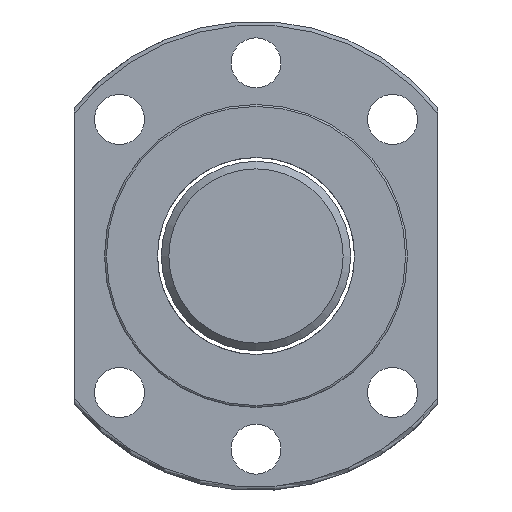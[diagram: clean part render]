
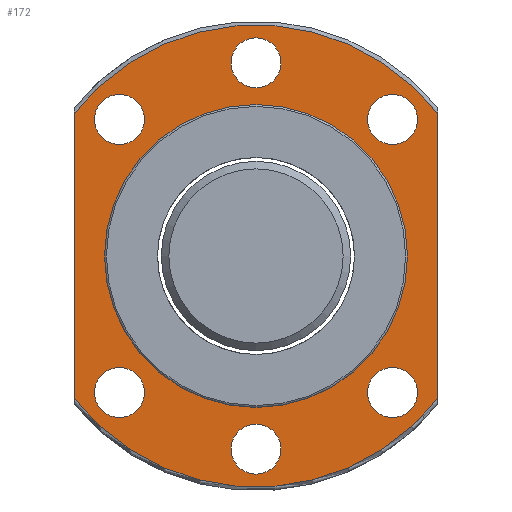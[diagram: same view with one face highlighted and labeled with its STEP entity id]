
A CAD part, left-side view. The second image highlights one B-rep face of the part: STEP entity #172.
In plain terms, the highlighted planar face has unit normal (-1, 0, 0).
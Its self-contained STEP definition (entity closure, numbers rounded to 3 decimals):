
#109=PLANE('',#679);
#126=LINE('',#1118,#134);
#127=LINE('',#1119,#135);
#134=VECTOR('',#782,1.);
#135=VECTOR('',#783,1.);
#148=FACE_OUTER_BOUND('',#308,.T.);
#172=ADVANCED_FACE('',(#148,#242,#243,#244,#245,#246,#247,#248),#109,.T.);
#242=FACE_BOUND('',#309,.T.);
#243=FACE_BOUND('',#310,.T.);
#244=FACE_BOUND('',#311,.T.);
#245=FACE_BOUND('',#312,.T.);
#246=FACE_BOUND('',#313,.T.);
#247=FACE_BOUND('',#314,.T.);
#248=FACE_BOUND('',#315,.T.);
#308=EDGE_LOOP('',(#411,#412,#413,#414));
#309=EDGE_LOOP('',(#415));
#310=EDGE_LOOP('',(#416));
#311=EDGE_LOOP('',(#417));
#312=EDGE_LOOP('',(#418));
#313=EDGE_LOOP('',(#419));
#314=EDGE_LOOP('',(#420));
#315=EDGE_LOOP('',(#421));
#411=ORIENTED_EDGE('',*,*,#577,.F.);
#412=ORIENTED_EDGE('',*,*,#557,.F.);
#413=ORIENTED_EDGE('',*,*,#578,.T.);
#414=ORIENTED_EDGE('',*,*,#575,.F.);
#415=ORIENTED_EDGE('',*,*,#579,.T.);
#416=ORIENTED_EDGE('',*,*,#580,.F.);
#417=ORIENTED_EDGE('',*,*,#581,.F.);
#418=ORIENTED_EDGE('',*,*,#582,.F.);
#419=ORIENTED_EDGE('',*,*,#583,.F.);
#420=ORIENTED_EDGE('',*,*,#584,.F.);
#421=ORIENTED_EDGE('',*,*,#585,.F.);
#502=VERTEX_POINT('',#985);
#503=VERTEX_POINT('',#1005);
#517=VERTEX_POINT('',#1095);
#518=VERTEX_POINT('',#1097);
#519=VERTEX_POINT('',#1121);
#520=VERTEX_POINT('',#1123);
#521=VERTEX_POINT('',#1125);
#522=VERTEX_POINT('',#1127);
#523=VERTEX_POINT('',#1129);
#524=VERTEX_POINT('',#1131);
#525=VERTEX_POINT('',#1133);
#557=EDGE_CURVE('',#503,#502,#610,.T.);
#575=EDGE_CURVE('',#517,#518,#621,.T.);
#577=EDGE_CURVE('',#502,#517,#126,.T.);
#578=EDGE_CURVE('',#503,#518,#127,.T.);
#579=EDGE_CURVE('',#519,#519,#622,.T.);
#580=EDGE_CURVE('',#520,#520,#623,.T.);
#581=EDGE_CURVE('',#521,#521,#624,.T.);
#582=EDGE_CURVE('',#522,#522,#625,.T.);
#583=EDGE_CURVE('',#523,#523,#626,.T.);
#584=EDGE_CURVE('',#524,#524,#627,.T.);
#585=EDGE_CURVE('',#525,#525,#628,.T.);
#610=CIRCLE('',#655,30.5);
#621=CIRCLE('',#670,30.5);
#622=CIRCLE('',#672,20.);
#623=CIRCLE('',#673,3.3);
#624=CIRCLE('',#674,3.3);
#625=CIRCLE('',#675,3.3);
#626=CIRCLE('',#676,3.3);
#627=CIRCLE('',#677,3.3);
#628=CIRCLE('',#678,3.3);
#655=AXIS2_PLACEMENT_3D('',#1006,#744,#745);
#670=AXIS2_PLACEMENT_3D('',#1096,#778,#779);
#672=AXIS2_PLACEMENT_3D('',#1120,#784,#785);
#673=AXIS2_PLACEMENT_3D('',#1122,#786,#787);
#674=AXIS2_PLACEMENT_3D('',#1124,#788,#789);
#675=AXIS2_PLACEMENT_3D('',#1126,#790,#791);
#676=AXIS2_PLACEMENT_3D('',#1128,#792,#793);
#677=AXIS2_PLACEMENT_3D('',#1130,#794,#795);
#678=AXIS2_PLACEMENT_3D('',#1132,#796,#797);
#679=AXIS2_PLACEMENT_3D('',#1134,#798,#799);
#744=DIRECTION('',(1.,0.,0.));
#745=DIRECTION('',(0.,0.,-1.));
#778=DIRECTION('',(1.,0.,0.));
#779=DIRECTION('',(0.,0.,-1.));
#782=DIRECTION('',(0.,0.,1.));
#783=DIRECTION('',(0.,0.,1.));
#784=DIRECTION('',(1.,0.,0.));
#785=DIRECTION('',(0.,0.,-1.));
#786=DIRECTION('',(-1.,0.,0.));
#787=DIRECTION('',(0.,0.,1.));
#788=DIRECTION('',(-1.,0.,0.));
#789=DIRECTION('',(0.,0.,1.));
#790=DIRECTION('',(-1.,0.,0.));
#791=DIRECTION('',(0.,0.,1.));
#792=DIRECTION('',(-1.,0.,0.));
#793=DIRECTION('',(0.,0.,1.));
#794=DIRECTION('',(-1.,0.,0.));
#795=DIRECTION('',(0.,0.,1.));
#796=DIRECTION('',(-1.,0.,0.));
#797=DIRECTION('',(0.,0.,1.));
#798=DIRECTION('',(-1.,0.,0.));
#799=DIRECTION('',(0.,0.,1.));
#985=CARTESIAN_POINT('',(-31.,24.,-18.822));
#1005=CARTESIAN_POINT('',(-31.,-24.,-18.822));
#1006=CARTESIAN_POINT('',(-31.,0.,0.));
#1095=CARTESIAN_POINT('',(-31.,24.,18.822));
#1096=CARTESIAN_POINT('',(-31.,0.,0.));
#1097=CARTESIAN_POINT('',(-31.,-24.,18.822));
#1118=CARTESIAN_POINT('',(-31.,24.,0.));
#1119=CARTESIAN_POINT('',(-31.,-24.,0.));
#1120=CARTESIAN_POINT('',(-31.,0.,0.));
#1121=CARTESIAN_POINT('',(-31.,0.,-20.));
#1122=CARTESIAN_POINT('',(-31.,18.031,18.031));
#1123=CARTESIAN_POINT('',(-31.,18.031,21.331));
#1124=CARTESIAN_POINT('',(-31.,-18.031,18.031));
#1125=CARTESIAN_POINT('',(-31.,-18.031,21.331));
#1126=CARTESIAN_POINT('',(-31.,-18.031,-18.031));
#1127=CARTESIAN_POINT('',(-31.,-18.031,-14.731));
#1128=CARTESIAN_POINT('',(-31.,18.031,-18.031));
#1129=CARTESIAN_POINT('',(-31.,18.031,-14.731));
#1130=CARTESIAN_POINT('',(-31.,0.,25.5));
#1131=CARTESIAN_POINT('',(-31.,0.,28.8));
#1132=CARTESIAN_POINT('',(-31.,0.,-25.5));
#1133=CARTESIAN_POINT('',(-31.,0.,-22.2));
#1134=CARTESIAN_POINT('',(-31.,25.25,0.));
